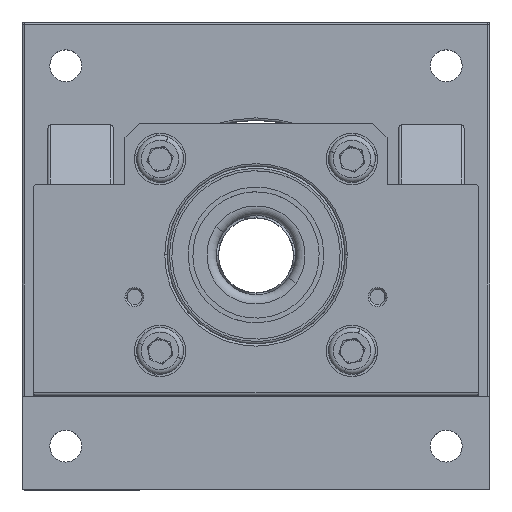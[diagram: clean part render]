
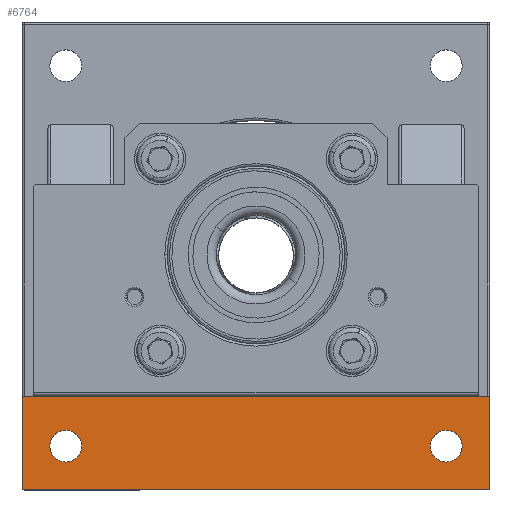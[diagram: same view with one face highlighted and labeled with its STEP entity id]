
A CAD part, top view. The second image highlights one B-rep face of the part: STEP entity #6764.
In plain terms, the highlighted planar face has unit normal (0, 0, 1).
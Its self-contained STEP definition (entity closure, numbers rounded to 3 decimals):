
#371 = DIRECTION ( 'NONE',  ( -1., 0., 0. ) ) ;
#458 = LINE ( 'NONE', #2034, #7297 ) ;
#485 = ORIENTED_EDGE ( 'NONE', *, *, #11394, .F. ) ;
#501 = CARTESIAN_POINT ( 'NONE',  ( 44.059, -40.659, -115. ) ) ;
#671 = CARTESIAN_POINT ( 'NONE',  ( 37.259, -40.659, -115. ) ) ;
#752 = CARTESIAN_POINT ( 'NONE',  ( 49.5, -50., -115. ) ) ;
#996 = ORIENTED_EDGE ( 'NONE', *, *, #6509, .F. ) ;
#1064 = DIRECTION ( 'NONE',  ( -1., 0., 0. ) ) ;
#1168 = CARTESIAN_POINT ( 'NONE',  ( 50., -30., -115. ) ) ;
#1279 = AXIS2_PLACEMENT_3D ( 'NONE', #2842, #4534, #10702 ) ;
#1372 = EDGE_CURVE ( 'NONE', #1741, #5374, #8961, .T. ) ;
#1453 = ORIENTED_EDGE ( 'NONE', *, *, #9900, .F. ) ;
#1476 = CARTESIAN_POINT ( 'NONE',  ( -40.659, -40.659, -115. ) ) ;
#1646 = FACE_BOUND ( 'NONE', #10247, .T. ) ;
#1741 = VERTEX_POINT ( 'NONE', #671 ) ;
#1775 = CIRCLE ( 'NONE', #9136, 0.5 ) ;
#1797 = LINE ( 'NONE', #10905, #4110 ) ;
#2034 = CARTESIAN_POINT ( 'NONE',  ( -50., -30., -115. ) ) ;
#2158 = CARTESIAN_POINT ( 'NONE',  ( 50., -49.5, -115. ) ) ;
#2317 = DIRECTION ( 'NONE',  ( 0., 0., 1. ) ) ;
#2405 = DIRECTION ( 'NONE',  ( -1., 0., 0. ) ) ;
#2475 = ORIENTED_EDGE ( 'NONE', *, *, #10187, .T. ) ;
#2596 = VECTOR ( 'NONE', #7357, 1000. ) ;
#2807 = EDGE_LOOP ( 'NONE', ( #8165, #996, #6453, #5514, #2475, #11028 ) ) ;
#2842 = CARTESIAN_POINT ( 'NONE',  ( 50., -30., -115. ) ) ;
#3073 = AXIS2_PLACEMENT_3D ( 'NONE', #1476, #7651, #2405 ) ;
#3649 = DIRECTION ( 'NONE',  ( -1., 0., 0. ) ) ;
#3693 = DIRECTION ( 'NONE',  ( 0., 0., 1. ) ) ;
#3731 = DIRECTION ( 'NONE',  ( 0., 0., 1. ) ) ;
#3736 = DIRECTION ( 'NONE',  ( 0., -1., 0. ) ) ;
#3837 = CARTESIAN_POINT ( 'NONE',  ( 40.659, -40.659, -115. ) ) ;
#3983 = EDGE_LOOP ( 'NONE', ( #485, #1453 ) ) ;
#4007 = CARTESIAN_POINT ( 'NONE',  ( 40.659, -40.659, -115. ) ) ;
#4077 = CARTESIAN_POINT ( 'NONE',  ( 50., -30., -115. ) ) ;
#4110 = VECTOR ( 'NONE', #6514, 1000. ) ;
#4112 = VERTEX_POINT ( 'NONE', #4225 ) ;
#4225 = CARTESIAN_POINT ( 'NONE',  ( -44.059, -40.659, -115. ) ) ;
#4283 = AXIS2_PLACEMENT_3D ( 'NONE', #10993, #5683, #371 ) ;
#4484 = ORIENTED_EDGE ( 'NONE', *, *, #8743, .F. ) ;
#4534 = DIRECTION ( 'NONE',  ( 0., 0., -1. ) ) ;
#4567 = CARTESIAN_POINT ( 'NONE',  ( -49.5, -50., -115. ) ) ;
#4823 = VERTEX_POINT ( 'NONE', #4077 ) ;
#4849 = LINE ( 'NONE', #1168, #2596 ) ;
#4864 = DIRECTION ( 'NONE',  ( -1., 0., 0. ) ) ;
#5374 = VERTEX_POINT ( 'NONE', #501 ) ;
#5514 = ORIENTED_EDGE ( 'NONE', *, *, #10611, .F. ) ;
#5602 = AXIS2_PLACEMENT_3D ( 'NONE', #3837, #3731, #3649 ) ;
#5683 = DIRECTION ( 'NONE',  ( 0., 0., 1. ) ) ;
#6014 = FACE_OUTER_BOUND ( 'NONE', #2807, .T. ) ;
#6092 = CIRCLE ( 'NONE', #4283, 0.5 ) ;
#6266 = VERTEX_POINT ( 'NONE', #752 ) ;
#6453 = ORIENTED_EDGE ( 'NONE', *, *, #10724, .T. ) ;
#6509 = EDGE_CURVE ( 'NONE', #6266, #7562, #1797, .T. ) ;
#6514 = DIRECTION ( 'NONE',  ( -1., 0., 0. ) ) ;
#6550 = VERTEX_POINT ( 'NONE', #2158 ) ;
#6764 = ADVANCED_FACE ( 'NONE', ( #6014, #1646, #10996 ), #7200, .F. ) ;
#6841 = EDGE_CURVE ( 'NONE', #9572, #8341, #458, .T. ) ;
#7030 = CARTESIAN_POINT ( 'NONE',  ( -37.259, -40.659, -115. ) ) ;
#7200 = PLANE ( 'NONE',  #1279 ) ;
#7297 = VECTOR ( 'NONE', #3736, 1000. ) ;
#7357 = DIRECTION ( 'NONE',  ( 0., -1., 0. ) ) ;
#7535 = EDGE_CURVE ( 'NONE', #8341, #7562, #1775, .T. ) ;
#7544 = AXIS2_PLACEMENT_3D ( 'NONE', #7582, #2317, #8458 ) ;
#7562 = VERTEX_POINT ( 'NONE', #4567 ) ;
#7582 = CARTESIAN_POINT ( 'NONE',  ( -40.659, -40.659, -115. ) ) ;
#7651 = DIRECTION ( 'NONE',  ( 0., 0., 1. ) ) ;
#8163 = CARTESIAN_POINT ( 'NONE',  ( 50., -30., -115. ) ) ;
#8165 = ORIENTED_EDGE ( 'NONE', *, *, #7535, .T. ) ;
#8328 = ORIENTED_EDGE ( 'NONE', *, *, #1372, .F. ) ;
#8341 = VERTEX_POINT ( 'NONE', #10276 ) ;
#8415 = AXIS2_PLACEMENT_3D ( 'NONE', #4007, #10172, #4864 ) ;
#8458 = DIRECTION ( 'NONE',  ( -1., 0., 0. ) ) ;
#8646 = CIRCLE ( 'NONE', #8415, 3.4 ) ;
#8743 = EDGE_CURVE ( 'NONE', #5374, #1741, #8646, .T. ) ;
#8961 = CIRCLE ( 'NONE', #5602, 3.4 ) ;
#8972 = CARTESIAN_POINT ( 'NONE',  ( -49.5, -49.5, -115. ) ) ;
#9037 = CIRCLE ( 'NONE', #7544, 3.4 ) ;
#9136 = AXIS2_PLACEMENT_3D ( 'NONE', #8972, #3693, #9838 ) ;
#9139 = CIRCLE ( 'NONE', #3073, 3.4 ) ;
#9151 = VECTOR ( 'NONE', #1064, 1000. ) ;
#9427 = LINE ( 'NONE', #8163, #9151 ) ;
#9572 = VERTEX_POINT ( 'NONE', #11413 ) ;
#9838 = DIRECTION ( 'NONE',  ( -1., 0., 0. ) ) ;
#9900 = EDGE_CURVE ( 'NONE', #10139, #4112, #9037, .T. ) ;
#10139 = VERTEX_POINT ( 'NONE', #7030 ) ;
#10172 = DIRECTION ( 'NONE',  ( 0., 0., 1. ) ) ;
#10187 = EDGE_CURVE ( 'NONE', #4823, #9572, #9427, .T. ) ;
#10247 = EDGE_LOOP ( 'NONE', ( #8328, #4484 ) ) ;
#10276 = CARTESIAN_POINT ( 'NONE',  ( -50., -49.5, -115. ) ) ;
#10611 = EDGE_CURVE ( 'NONE', #4823, #6550, #4849, .T. ) ;
#10702 = DIRECTION ( 'NONE',  ( -1., 0., 0. ) ) ;
#10724 = EDGE_CURVE ( 'NONE', #6266, #6550, #6092, .T. ) ;
#10905 = CARTESIAN_POINT ( 'NONE',  ( 50., -50., -115. ) ) ;
#10993 = CARTESIAN_POINT ( 'NONE',  ( 49.5, -49.5, -115. ) ) ;
#10996 = FACE_BOUND ( 'NONE', #3983, .T. ) ;
#11028 = ORIENTED_EDGE ( 'NONE', *, *, #6841, .T. ) ;
#11394 = EDGE_CURVE ( 'NONE', #4112, #10139, #9139, .T. ) ;
#11413 = CARTESIAN_POINT ( 'NONE',  ( -50., -30., -115. ) ) ;
